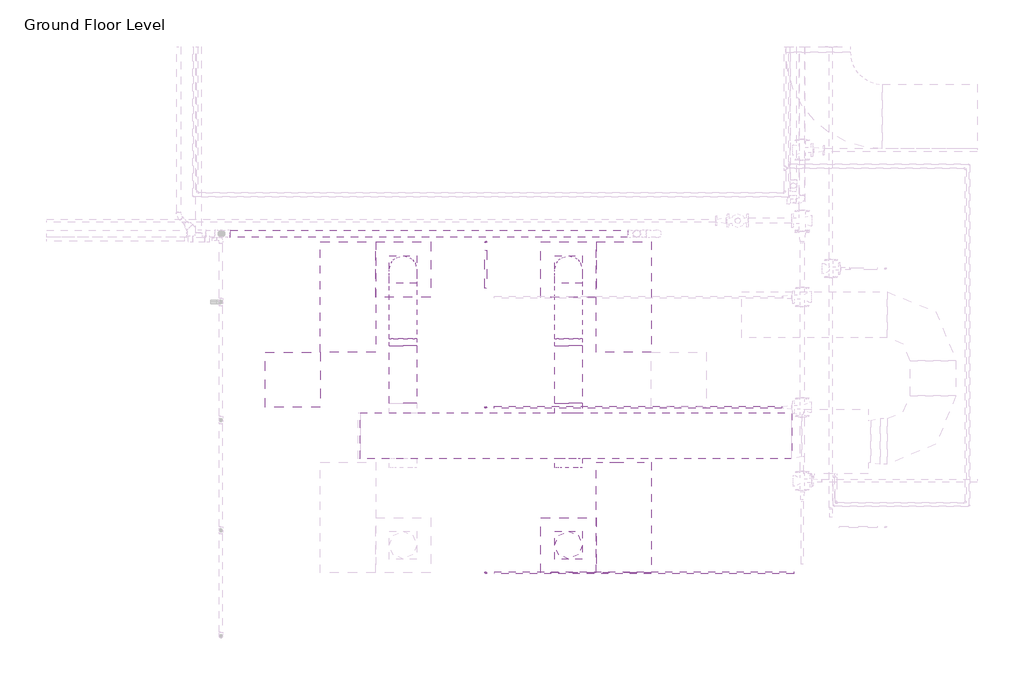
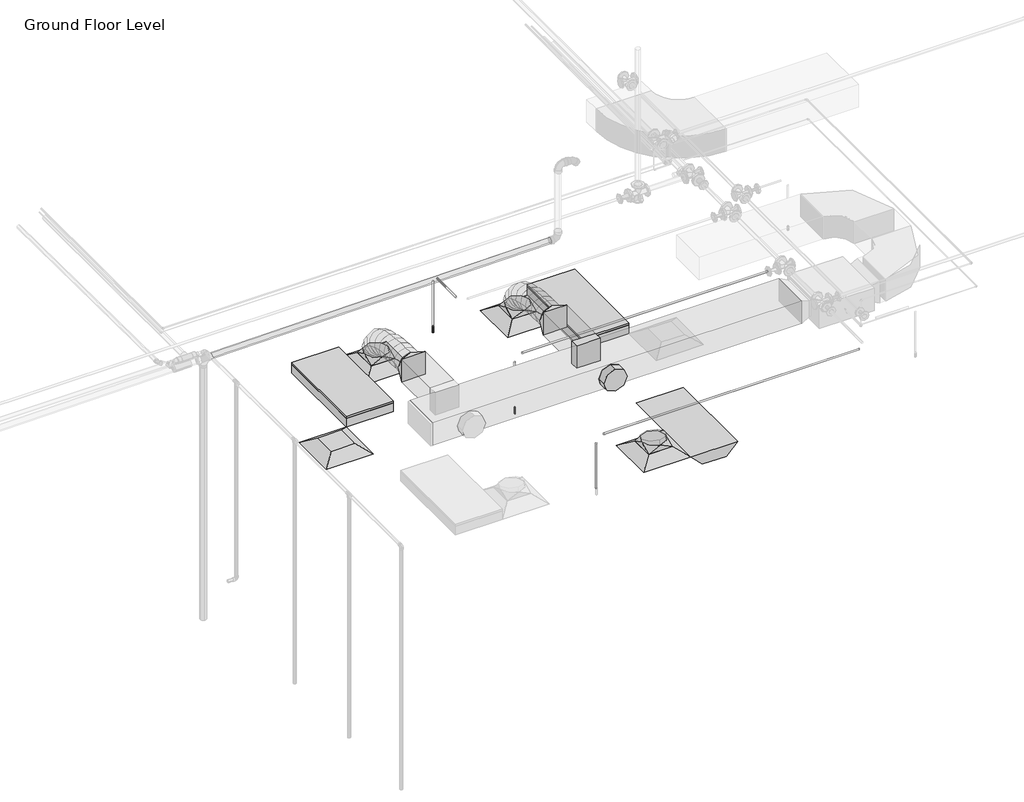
# One storey, part 14 of 74: 7 duct fittings, 7 pipe segments, 6 duct segments, 4 air terminals, 3 light fixtures, 2 fire suppression terminals.
"""IFC4 building model written with IfcOpenShell, lengths in millimetres."""

from ifc_helpers import new_model, si_unit, point, frame, frame_2d, origin, place, context, project, spatial, polyline, circle_curve, ellipse_curve, trimmed, segment, composite_curve, outline, extrude, transform, mapped, element, save
from ifc_brep_helpers import plane_surface, cylinder_surface, advanced_brep
from components import m_return_diffuser_600_x_600_face_300_x_300_connection_ff221211, m_rectangular_takeoff_standard_2be5eba1, m_rectangular_to_round_transition_angle_45_degree_641efff0, m_round_takeoff_standard_603b0510, m_sprinkler_dry_pendent_hosted_15_mm_dry_pendent_9bda8e11, m_emergency_recessed_lighting_fixture_600x1200_277_5b10b25d, m_troffer_light_parabolic_rectangular1_0600x1200mm_4_lamp_86473d4a

model = new_model("IFC4")

# Units and contexts
model_context = context("Model", 3, world=origin())
ifc_project = project(units=[si_unit("LENGTHUNIT", "METRE", prefix="MILLI")], contexts=[model_context])

# Site, building, storey
site = spatial("IfcSite", under=ifc_project)
building = spatial("IfcBuilding", under=site)
storey = spatial("IfcBuildingStorey", under=building, Name="Ground Floor Level", Elevation=900.0)

# Air terminals
placement = place(None, origin())
m_return_diffuser_600_x_600_face_300_x_300_connection_shape = m_return_diffuser_600_x_600_face_300_x_300_connection_ff221211(model_context)
element("IfcAirTerminal", 1, ObjectType="M_Return Diffuser : 600 x 600 Face 300 x 300 Connection", at=placement, inside=storey, context=model_context, shape_type="MappedRepresentation", body=[
    mapped(m_return_diffuser_600_x_600_face_300_x_300_connection_shape, transform((142.7672394, -37764.7846466, 3650.0), x_axis=(1.0, 0.0, 0.0), y_axis=(0.0, 1.0, 0.0), z_axis=(0.0, 0.0, 1.0))),
])
element("IfcAirTerminal", 2, ObjectType="M_Supply Diffuser : 600 x 600 Face 300 x 300 Connection", at=placement, inside=storey, context=model_context, shape_type="MappedRepresentation", body=[
    mapped(m_return_diffuser_600_x_600_face_300_x_300_connection_shape, transform((1342.7672394, -36564.7846466, 3650.0), x_axis=(1.0, 0.0, 0.0), y_axis=(0.0, 1.0, 0.0), z_axis=(0.0, 0.0, 1.0))),
])
element("IfcAirTerminal", 3, ObjectType="M_Supply Diffuser : 600 x 600 Face 300 x 300 Connection", at=placement, inside=storey, context=model_context, shape_type="MappedRepresentation", body=[
    mapped(m_return_diffuser_600_x_600_face_300_x_300_connection_shape, transform((3142.7672394, -36564.7846466, 3650.0), x_axis=(1.0, 0.0, 0.0), y_axis=(0.0, 1.0, 0.0), z_axis=(0.0, 0.0, 1.0))),
])
element("IfcAirTerminal", 4, ObjectType="M_Supply Diffuser : 600 x 600 Face 300 x 300 Connection", at=placement, inside=storey, context=model_context, shape_type="MappedRepresentation", body=[
    mapped(m_return_diffuser_600_x_600_face_300_x_300_connection_shape, transform((3142.7672394, -39564.7846466, 3650.0), x_axis=(1.0, 0.0, 0.0), y_axis=(0.0, 1.0, 0.0), z_axis=(0.0, 0.0, 1.0))),
])

# Duct fittings
m_rectangular_takeoff_standard_shape = m_rectangular_takeoff_standard_2be5eba1(model_context)
element("IfcDuctFitting", 5, ObjectType="M_Rectangular Takeoff : Standard", at=placement, inside=storey, context=model_context, shape_type="MappedRepresentation", body=[
    mapped(m_rectangular_takeoff_standard_shape, transform((3142.7672394, -38122.6128682, 4100.0), x_axis=(0.0, 1.0, 0.0), y_axis=(1.0, 0.0, 0.0), z_axis=(0.0, 0.0, -1.0))),
])
m_rectangular_to_round_transition_angle_45_degree_shape = m_rectangular_to_round_transition_angle_45_degree_641efff0(model_context)
element("IfcDuctFitting", 6, ObjectType="M_Rectangular to Round Transition - Angle : 45 Degree", at=placement, inside=storey, context=model_context, shape_type="MappedRepresentation", body=[
    mapped(m_rectangular_to_round_transition_angle_45_degree_shape, transform((3142.7672394, -39564.7846466, 3751.6), x_axis=(0.0, 0.0, 1.0), y_axis=(-1.0, 0.0, 0.0), z_axis=(0.0, -1.0, 0.0))),
])
element("IfcDuctFitting", 7, ObjectType="M_Rectangular to Round Transition - Angle : 45 Degree", at=placement, inside=storey, context=model_context, shape_type="MappedRepresentation", body=[
    mapped(m_rectangular_to_round_transition_angle_45_degree_shape, transform((3142.7672394, -36564.7846466, 3751.6), x_axis=(0.0, 0.0, 1.0), y_axis=(-1.0, 0.0, 0.0), z_axis=(0.0, -1.0, 0.0))),
])
element("IfcDuctFitting", 8, ObjectType="M_Rectangular to Round Transition - Angle : 45 Degree", at=placement, inside=storey, context=model_context, shape_type="MappedRepresentation", body=[
    mapped(m_rectangular_to_round_transition_angle_45_degree_shape, transform((3142.7672394, -37392.1205779, 4100.0), x_axis=(0.0, 1.0, 0.0), y_axis=(-1.0, 0.0, 0.0), z_axis=(0.0, 0.0, 1.0))),
])
element("IfcDuctFitting", 9, ObjectType="M_Rectangular to Round Transition - Angle : 45 Degree", at=placement, inside=storey, context=model_context, shape_type="MappedRepresentation", body=[
    mapped(m_rectangular_to_round_transition_angle_45_degree_shape, transform((1342.7672394, -36564.7846466, 3751.6), x_axis=(0.0, 0.0, 1.0), y_axis=(-1.0, 0.0, 0.0), z_axis=(0.0, -1.0, 0.0))),
])
element("IfcDuctFitting", 10, ObjectType="M_Rectangular to Round Transition - Angle : 45 Degree", at=placement, inside=storey, context=model_context, shape_type="MappedRepresentation", body=[
    mapped(m_rectangular_to_round_transition_angle_45_degree_shape, transform((1342.7672394, -37392.1205779, 4100.0), x_axis=(0.0, 1.0, 0.0), y_axis=(-1.0, 0.0, 0.0), z_axis=(0.0, 0.0, 1.0))),
])
m_round_takeoff_standard_shape = m_round_takeoff_standard_603b0510(model_context)
element("IfcDuctFitting", 11, ObjectType="M_Round Takeoff : Standard", at=placement, inside=storey, context=model_context, shape_type="MappedRepresentation", body=[
    mapped(m_round_takeoff_standard_shape, transform((3142.7672394, -38622.6128682, 4100.0), x_axis=(0.0, -1.0, 0.0), y_axis=(-1.0, 0.0, 0.0), z_axis=(0.0, 0.0, -1.0))),
])

# Duct segments
element("IfcDuctSegment", 12, ObjectType="Flex - Round", at=placement, inside=storey, context=model_context, shape_type="AdvancedBrep", body=[
    advanced_brep(
    [(3292.7672394, -39564.7846466, 3826.6), (3142.7672394, -39714.7846466, 3826.6), (2992.7672394, -39564.7846466, 3826.6), (3142.7672394, -39414.7846466, 3826.6), (3292.7672394, -39564.7846466, 3860.5958413), (3142.7672394, -39414.7846466, 3830.2822637), (2992.7672394, -39564.7846466, 3860.5958413), (3142.7672394, -39714.7846466, 3890.9094188)],
    [
        (0, 1, circle_curve(frame((3142.7672394, -39564.7846466, 3826.6), z_axis=(0.0, 0.0, -1.0), x_axis=(1.0, 0.0, 0.0)), 150.0)),
        (1, 2, circle_curve(frame((3142.7672394, -39564.7846466, 3826.6), z_axis=(0.0, 0.0, -1.0), x_axis=(1.0, 0.0, 0.0)), 150.0)),
        (2, 3, circle_curve(frame((3142.7672394, -39564.7846466, 3826.6), z_axis=(0.0, 0.0, -1.0), x_axis=(1.0, 0.0, 0.0)), 150.0)),
        (3, 0, circle_curve(frame((3142.7672394, -39564.7846466, 3826.6), z_axis=(0.0, 0.0, -1.0), x_axis=(1.0, 0.0, 0.0)), 150.0)),
        (4, 5, ellipse_curve(frame((3142.7672394, -39564.7846466, 3860.5958413), z_axis=(0.0, 0.19808602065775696, 0.9801846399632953), x_axis=(0.0, 0.9801846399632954, -0.19808602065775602)), 153.0323919, 150.0)),
        (5, 6, ellipse_curve(frame((3142.7672394, -39564.7846466, 3860.5958413), z_axis=(0.0, 0.19808602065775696, 0.9801846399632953), x_axis=(0.0, 0.9801846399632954, -0.19808602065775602)), 153.0323919, 150.0)),
        (6, 7, ellipse_curve(frame((3142.7672394, -39564.7846466, 3860.5958413), z_axis=(0.0, 0.19808602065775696, 0.9801846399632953), x_axis=(0.0, 0.9801846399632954, -0.19808602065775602)), 153.0323919, 150.0)),
        (7, 4, ellipse_curve(frame((3142.7672394, -39564.7846466, 3860.5958413), z_axis=(0.0, 0.19808602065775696, 0.9801846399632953), x_axis=(0.0, 0.9801846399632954, -0.19808602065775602)), 153.0323919, 150.0)),
        (0, 4),
        (7, 1),
        (6, 2),
        (5, 3),
    ],
    [
        plane_surface(frame((3142.7672394, -39714.7846466, 3826.6), z_axis=(0.0, 0.0, -1.0), x_axis=(1.0, 0.0, 0.0))),
        plane_surface(frame((3292.7672394, -39564.7846466, 3860.5958413), z_axis=(0.0, 0.19808602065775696, 0.9801846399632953), x_axis=(0.0, 0.9801846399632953, -0.19808602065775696))),
        cylinder_surface(frame((3142.7672394, -39564.7846466, 3826.6), z_axis=(0.0, 0.0, -1.0), x_axis=(1.0, 0.0, 0.0)), 150.0),
    ],
    [
        (0, [[1, 2, 3, 4]]),
        (1, [[5, 6, 7, 8]]),
        (2, [[-1, 9, -8, 10]]),
        (2, [[-2, -10, -7, 11]]),
        (2, [[-3, -11, -6, 12]]),
        (2, [[-4, -12, -5, -9]]),
    ],
),
])
element("IfcDuctSegment", 13, ObjectType="Flex - Round", at=placement, inside=storey, context=model_context, shape_type="AdvancedBrep", body=[
    advanced_brep(
    [(3292.7672394, -36564.7846466, 3826.6), (3142.7672394, -36714.7846466, 3826.6), (2992.7672394, -36564.7846466, 3826.6), (3142.7672394, -36414.7846466, 3826.6), (3292.7672394, -36564.7846466, 3857.9377114), (3142.7672394, -36714.7846466, 3832.2944892), (2992.7672394, -36564.7846466, 3857.9377114), (3142.7672394, -36414.7846466, 3883.5809337), (3292.7672394, -36581.8005792, 3906.2505728), (3142.7672394, -36715.5385581, 3834.435049), (2992.7672394, -36581.8005792, 3906.2505728), (3142.7672394, -36448.0626002, 3978.0660967), (3292.7672394, -36628.9844595, 3968.7113131), (3142.7672394, -36733.1903588, 3857.8020236), (2992.7672394, -36628.9844595, 3968.7113131), (3142.7672394, -36524.7785603, 4079.6206026), (3292.7672394, -36700.5404117, 4016.0700639), (3142.7672394, -36769.4744673, 3881.8163788), (2992.7672394, -36700.5404117, 4016.0700639), (3142.7672394, -36631.6063561, 4150.3237489), (3292.7672394, -36790.6725597, 4050.4146682), (3142.7672394, -36834.2333229, 3906.4925606), (2992.7672394, -36790.6725597, 4050.4146682), (3142.7672394, -36747.1117965, 4194.3367758), (3292.7672394, -36893.5850275, 4073.8329691), (3142.7672394, -36920.1459515, 3926.0424542), (2992.7672394, -36893.5850275, 4073.8329691), (3142.7672394, -36867.0241035, 4221.6234841), (3292.7672394, -37003.4819393, 4088.4128097), (3142.7672394, -37018.6328416, 3939.1085462), (2992.7672394, -37003.4819393, 4088.4128097), (3142.7672394, -36988.3310369, 4237.7170733), (3292.7672394, -37114.5674189, 4096.242033), (3142.7672394, -37122.0727471, 3946.398915), (2992.7672394, -37114.5674189, 4096.242033), (3142.7672394, -37107.0620907, 4246.085151), (3292.7672394, -37221.0455904, 4099.4084821), (3142.7672394, -37223.7370835, 3949.4222102), (2992.7672394, -37221.0455904, 4099.4084821), (3142.7672394, -37218.3540973, 4249.394754), (3292.7672394, -37317.1205779, 4100.0), (3142.7672394, -37316.1970701, 4249.9971571), (2992.7672394, -37317.1205779, 4100.0), (3142.7672394, -37318.0440857, 3950.0028429)],
    [
        (0, 1, circle_curve(frame((3142.7672394, -36564.7846466, 3826.6), z_axis=(0.0, 0.0, -1.0), x_axis=(1.0, 0.0, 0.0)), 150.0)),
        (1, 2, circle_curve(frame((3142.7672394, -36564.7846466, 3826.6), z_axis=(0.0, 0.0, -1.0), x_axis=(1.0, 0.0, 0.0)), 150.0)),
        (2, 3, circle_curve(frame((3142.7672394, -36564.7846466, 3826.6), z_axis=(0.0, 0.0, -1.0), x_axis=(1.0, 0.0, 0.0)), 150.0)),
        (3, 0, circle_curve(frame((3142.7672394, -36564.7846466, 3826.6), z_axis=(0.0, 0.0, -1.0), x_axis=(1.0, 0.0, 0.0)), 150.0)),
        (0, 4),
        (4, 5, ellipse_curve(frame((3142.7672394, -36564.7846466, 3857.9377114), z_axis=(0.0, 0.16851014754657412, -0.9856999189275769), x_axis=(0.0, -0.9856999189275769, -0.16851014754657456)), 152.176131, 150.0)),
        (5, 1),
        (5, 6, ellipse_curve(frame((3142.7672394, -36564.7846466, 3857.9377114), z_axis=(0.0, 0.16851014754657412, -0.9856999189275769), x_axis=(0.0, -0.9856999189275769, -0.16851014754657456)), 152.176131, 150.0)),
        (6, 2),
        (6, 7, ellipse_curve(frame((3142.7672394, -36564.7846466, 3857.9377114), z_axis=(0.0, 0.16851014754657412, -0.9856999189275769), x_axis=(0.0, -0.9856999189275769, -0.16851014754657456)), 152.176131, 150.0)),
        (7, 3),
        (7, 4, ellipse_curve(frame((3142.7672394, -36564.7846466, 3857.9377114), z_axis=(0.0, 0.16851014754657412, -0.9856999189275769), x_axis=(0.0, -0.9856999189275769, -0.16851014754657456)), 152.176131, 150.0)),
        (4, 8),
        (8, 9, ellipse_curve(frame((3142.7672394, -36581.8005792, 3906.2505728), z_axis=(0.0, 0.47309225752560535, -0.881012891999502), x_axis=(0.0, -0.8810128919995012, -0.473092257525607)), 151.8002519, 150.0)),
        (9, 5),
        (9, 10, ellipse_curve(frame((3142.7672394, -36581.8005792, 3906.2505728), z_axis=(0.0, 0.47309225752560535, -0.881012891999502), x_axis=(0.0, -0.8810128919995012, -0.473092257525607)), 151.8002519, 150.0)),
        (10, 6),
        (10, 11, ellipse_curve(frame((3142.7672394, -36581.8005792, 3906.2505728), z_axis=(0.0, 0.47309225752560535, -0.881012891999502), x_axis=(0.0, -0.8810128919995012, -0.473092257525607)), 151.8002519, 150.0)),
        (11, 7),
        (11, 8, ellipse_curve(frame((3142.7672394, -36581.8005792, 3906.2505728), z_axis=(0.0, 0.47309225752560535, -0.881012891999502), x_axis=(0.0, -0.8810128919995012, -0.473092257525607)), 151.8002519, 150.0)),
        (8, 12),
        (12, 13, ellipse_curve(frame((3142.7672394, -36628.9844595, 3968.7113131), z_axis=(0.0, 0.7287877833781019, -0.6847396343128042), x_axis=(0.0, -0.6847396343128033, -0.7287877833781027)), 152.1832446, 150.0)),
        (13, 9),
        (13, 14, ellipse_curve(frame((3142.7672394, -36628.9844595, 3968.7113131), z_axis=(0.0, 0.7287877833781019, -0.6847396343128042), x_axis=(0.0, -0.6847396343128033, -0.7287877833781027)), 152.1832446, 150.0)),
        (14, 10),
        (14, 15, ellipse_curve(frame((3142.7672394, -36628.9844595, 3968.7113131), z_axis=(0.0, 0.7287877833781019, -0.6847396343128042), x_axis=(0.0, -0.6847396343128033, -0.7287877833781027)), 152.1832446, 150.0)),
        (15, 11),
        (15, 12, ellipse_curve(frame((3142.7672394, -36628.9844595, 3968.7113131), z_axis=(0.0, 0.7287877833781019, -0.6847396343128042), x_axis=(0.0, -0.6847396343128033, -0.7287877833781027)), 152.1832446, 150.0)),
        (12, 16),
        (16, 17, ellipse_curve(frame((3142.7672394, -36700.5404117, 4016.0700639), z_axis=(0.0, 0.8895859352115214, -0.45676784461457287), x_axis=(0.0, -0.4567678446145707, -0.8895859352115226)), 150.91705, 150.0)),
        (17, 13),
        (17, 18, ellipse_curve(frame((3142.7672394, -36700.5404117, 4016.0700639), z_axis=(0.0, 0.8895859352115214, -0.45676784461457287), x_axis=(0.0, -0.4567678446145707, -0.8895859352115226)), 150.91705, 150.0)),
        (18, 14),
        (18, 19, ellipse_curve(frame((3142.7672394, -36700.5404117, 4016.0700639), z_axis=(0.0, 0.8895859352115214, -0.45676784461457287), x_axis=(0.0, -0.4567678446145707, -0.8895859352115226)), 150.91705, 150.0)),
        (19, 15),
        (19, 16, ellipse_curve(frame((3142.7672394, -36700.5404117, 4016.0700639), z_axis=(0.0, 0.8895859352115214, -0.45676784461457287), x_axis=(0.0, -0.4567678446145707, -0.8895859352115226)), 150.91705, 150.0)),
        (16, 20),
        (20, 21, ellipse_curve(frame((3142.7672394, -36790.6725597, 4050.4146682), z_axis=(0.0, 0.9571203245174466, -0.28969067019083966), x_axis=(0.0, -0.2896906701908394, -0.9571203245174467)), 150.369921, 150.0)),
        (21, 17),
        (21, 22, ellipse_curve(frame((3142.7672394, -36790.6725597, 4050.4146682), z_axis=(0.0, 0.9571203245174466, -0.28969067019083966), x_axis=(0.0, -0.2896906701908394, -0.9571203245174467)), 150.369921, 150.0)),
        (22, 18),
        (22, 23, ellipse_curve(frame((3142.7672394, -36790.6725597, 4050.4146682), z_axis=(0.0, 0.9571203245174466, -0.28969067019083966), x_axis=(0.0, -0.2896906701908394, -0.9571203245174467)), 150.369921, 150.0)),
        (23, 19),
        (23, 20, ellipse_curve(frame((3142.7672394, -36790.6725597, 4050.4146682), z_axis=(0.0, 0.9571203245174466, -0.28969067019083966), x_axis=(0.0, -0.2896906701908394, -0.9571203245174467)), 150.369921, 150.0)),
        (20, 24),
        (24, 25, ellipse_curve(frame((3142.7672394, -36893.5850275, 4073.8329691), z_axis=(0.0, 0.9842313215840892, -0.17688613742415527), x_axis=(0.0, -0.17688613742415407, -0.9842313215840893)), 150.1583131, 150.0)),
        (25, 21),
        (25, 26, ellipse_curve(frame((3142.7672394, -36893.5850275, 4073.8329691), z_axis=(0.0, 0.9842313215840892, -0.17688613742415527), x_axis=(0.0, -0.17688613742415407, -0.9842313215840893)), 150.1583131, 150.0)),
        (26, 22),
        (26, 27, ellipse_curve(frame((3142.7672394, -36893.5850275, 4073.8329691), z_axis=(0.0, 0.9842313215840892, -0.17688613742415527), x_axis=(0.0, -0.17688613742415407, -0.9842313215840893)), 150.1583131, 150.0)),
        (27, 23),
        (27, 24, ellipse_curve(frame((3142.7672394, -36893.5850275, 4073.8329691), z_axis=(0.0, 0.9842313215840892, -0.17688613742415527), x_axis=(0.0, -0.17688613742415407, -0.9842313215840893)), 150.1583131, 150.0)),
        (24, 28),
        (28, 29, ellipse_curve(frame((3142.7672394, -37003.4819393, 4088.4128097), z_axis=(0.0, 0.9948906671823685, -0.10095821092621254), x_axis=(0.0, -0.10095821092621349, -0.9948906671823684)), 150.0710264, 150.0)),
        (29, 25),
        (29, 30, ellipse_curve(frame((3142.7672394, -37003.4819393, 4088.4128097), z_axis=(0.0, 0.9948906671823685, -0.10095821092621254), x_axis=(0.0, -0.10095821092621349, -0.9948906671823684)), 150.0710264, 150.0)),
        (30, 26),
        (30, 31, ellipse_curve(frame((3142.7672394, -37003.4819393, 4088.4128097), z_axis=(0.0, 0.9948906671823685, -0.10095821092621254), x_axis=(0.0, -0.10095821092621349, -0.9948906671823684)), 150.0710264, 150.0)),
        (31, 27),
        (31, 28, ellipse_curve(frame((3142.7672394, -37003.4819393, 4088.4128097), z_axis=(0.0, 0.9948906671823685, -0.10095821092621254), x_axis=(0.0, -0.10095821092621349, -0.9948906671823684)), 150.0710264, 150.0)),
        (28, 32),
        (32, 33, ellipse_curve(frame((3142.7672394, -37114.5674189, 4096.242033), z_axis=(0.0, 0.9987479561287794, -0.05002519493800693), x_axis=(0.0, -0.05002519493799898, -0.99874795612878)), 150.0309634, 150.0)),
        (33, 29),
        (33, 34, ellipse_curve(frame((3142.7672394, -37114.5674189, 4096.242033), z_axis=(0.0, 0.9987479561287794, -0.05002519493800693), x_axis=(0.0, -0.05002519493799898, -0.99874795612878)), 150.0309634, 150.0)),
        (34, 30),
        (34, 35, ellipse_curve(frame((3142.7672394, -37114.5674189, 4096.242033), z_axis=(0.0, 0.9987479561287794, -0.05002519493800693), x_axis=(0.0, -0.05002519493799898, -0.99874795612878)), 150.0309634, 150.0)),
        (35, 31),
        (35, 32, ellipse_curve(frame((3142.7672394, -37114.5674189, 4096.242033), z_axis=(0.0, 0.9987479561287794, -0.05002519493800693), x_axis=(0.0, -0.05002519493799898, -0.99874795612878)), 150.0309634, 150.0)),
        (32, 36),
        (36, 37, ellipse_curve(frame((3142.7672394, -37221.0455904, 4099.4084821), z_axis=(0.0, 0.999839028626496, -0.01794204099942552), x_axis=(0.0, -0.01794204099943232, -0.9998390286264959)), 150.0104193, 150.0)),
        (37, 33),
        (37, 38, ellipse_curve(frame((3142.7672394, -37221.0455904, 4099.4084821), z_axis=(0.0, 0.999839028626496, -0.01794204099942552), x_axis=(0.0, -0.01794204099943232, -0.9998390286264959)), 150.0104193, 150.0)),
        (38, 34),
        (38, 39, ellipse_curve(frame((3142.7672394, -37221.0455904, 4099.4084821), z_axis=(0.0, 0.999839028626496, -0.01794204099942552), x_axis=(0.0, -0.01794204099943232, -0.9998390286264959)), 150.0104193, 150.0)),
        (39, 35),
        (39, 36, ellipse_curve(frame((3142.7672394, -37221.0455904, 4099.4084821), z_axis=(0.0, 0.999839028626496, -0.01794204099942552), x_axis=(0.0, -0.01794204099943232, -0.9998390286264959)), 150.0104193, 150.0)),
        (40, 41, circle_curve(frame((3142.7672394, -37317.1205779, 4100.0), z_axis=(0.0, -0.9999810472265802, 0.006156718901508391), x_axis=(1.0, 0.0, 0.0)), 150.0)),
        (41, 42, circle_curve(frame((3142.7672394, -37317.1205779, 4100.0), z_axis=(0.0, -0.9999810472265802, 0.006156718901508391), x_axis=(1.0, 0.0, 0.0)), 150.0)),
        (42, 43, circle_curve(frame((3142.7672394, -37317.1205779, 4100.0), z_axis=(0.0, -0.9999810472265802, 0.006156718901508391), x_axis=(1.0, 0.0, 0.0)), 150.0)),
        (43, 40, circle_curve(frame((3142.7672394, -37317.1205779, 4100.0), z_axis=(0.0, -0.9999810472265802, 0.006156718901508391), x_axis=(1.0, 0.0, 0.0)), 150.0)),
        (36, 40),
        (43, 37),
        (42, 38),
        (41, 39),
    ],
    [
        plane_surface(frame((3142.7672394, -36714.7846466, 3826.6), z_axis=(0.0, 0.0, -1.0), x_axis=(1.0, 0.0, 0.0))),
        cylinder_surface(frame((3142.7672394, -36564.7846466, 3826.6), z_axis=(0.0, 0.0, -1.0), x_axis=(1.0, 0.0, 0.0)), 150.0),
        cylinder_surface(frame((3142.7672394, -36564.7846466, 3857.9377114), z_axis=(0.0, 0.3322008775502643, -0.9432086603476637), x_axis=(1.0, 0.0, 0.0)), 150.0),
        cylinder_surface(frame((3142.7672394, -36581.8005792, 3906.2505728), z_axis=(0.0, 0.6027625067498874, -0.7979206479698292), x_axis=(1.0, 0.0, 0.0)), 150.0),
        cylinder_surface(frame((3142.7672394, -36628.9844595, 3968.7113131), z_axis=(0.0, 0.8339024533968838, -0.5519118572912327), x_axis=(1.0, 0.0, 0.0)), 150.0),
        cylinder_surface(frame((3142.7672394, -36700.5404117, 4016.0700639), z_axis=(0.0, 0.9344582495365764, -0.3560727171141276), x_axis=(1.0, 0.0, 0.0)), 150.0),
        cylinder_surface(frame((3142.7672394, -36790.6725597, 4050.4146682), z_axis=(0.0, 0.9750732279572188, -0.22188330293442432), x_axis=(1.0, 0.0, 0.0)), 150.0),
        cylinder_surface(frame((3142.7672394, -36893.5850275, 4073.8329691), z_axis=(0.0, 0.991314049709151, -0.13151598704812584), x_axis=(1.0, 0.0, 0.0)), 150.0),
        cylinder_surface(frame((3142.7672394, -37003.4819393, 4088.4128097), z_axis=(0.0, 0.9975255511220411, -0.07030487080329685), x_axis=(1.0, 0.0, 0.0)), 150.0),
        cylinder_surface(frame((3142.7672394, -37114.5674189, 4096.242033), z_axis=(0.0, 0.9995581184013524, -0.029724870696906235), x_axis=(1.0, 0.0, 0.0)), 150.0),
        plane_surface(frame((3142.7672394, -37318.0440857, 3950.0028429), z_axis=(0.0, -0.9999810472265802, 0.006156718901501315), x_axis=(1.0, 0.0, 0.0))),
        cylinder_surface(frame((3142.7672394, -37221.0455904, 4099.4084821), z_axis=(0.0, 0.9999810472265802, -0.006156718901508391), x_axis=(1.0, 0.0, 0.0)), 150.0),
    ],
    [
        (0, [[1, 2, 3, 4]]),
        (1, [[-1, 5, 6, 7]]),
        (1, [[-2, -7, 8, 9]]),
        (1, [[-3, -9, 10, 11]]),
        (1, [[-4, -11, 12, -5]]),
        (2, [[-6, 13, 14, 15]]),
        (2, [[-8, -15, 16, 17]]),
        (2, [[-10, -17, 18, 19]]),
        (2, [[-12, -19, 20, -13]]),
        (3, [[-14, 21, 22, 23]]),
        (3, [[-16, -23, 24, 25]]),
        (3, [[-18, -25, 26, 27]]),
        (3, [[-20, -27, 28, -21]]),
        (4, [[-22, 29, 30, 31]]),
        (4, [[-24, -31, 32, 33]]),
        (4, [[-26, -33, 34, 35]]),
        (4, [[-28, -35, 36, -29]]),
        (5, [[-30, 37, 38, 39]]),
        (5, [[-32, -39, 40, 41]]),
        (5, [[-34, -41, 42, 43]]),
        (5, [[-36, -43, 44, -37]]),
        (6, [[-38, 45, 46, 47]]),
        (6, [[-40, -47, 48, 49]]),
        (6, [[-42, -49, 50, 51]]),
        (6, [[-44, -51, 52, -45]]),
        (7, [[-46, 53, 54, 55]]),
        (7, [[-48, -55, 56, 57]]),
        (7, [[-50, -57, 58, 59]]),
        (7, [[-52, -59, 60, -53]]),
        (8, [[-54, 61, 62, 63]]),
        (8, [[-56, -63, 64, 65]]),
        (8, [[-58, -65, 66, 67]]),
        (8, [[-60, -67, 68, -61]]),
        (9, [[-62, 69, 70, 71]]),
        (9, [[-64, -71, 72, 73]]),
        (9, [[-66, -73, 74, 75]]),
        (9, [[-68, -75, 76, -69]]),
        (10, [[77, 78, 79, 80]]),
        (11, [[-70, 81, -80, 82]]),
        (11, [[-72, -82, -79, 83]]),
        (11, [[-74, -83, -78, 84]]),
        (11, [[-76, -84, -77, -81]]),
    ],
),
])
element("IfcDuctSegment", 14, ObjectType="Flex - Round", at=placement, inside=storey, context=model_context, shape_type="AdvancedBrep", body=[
    advanced_brep(
    [(1492.7672394, -36564.7846466, 3826.6), (1342.7672394, -36714.7846466, 3826.6), (1192.7672394, -36564.7846466, 3826.6), (1342.7672394, -36414.7846466, 3826.6), (1492.7672394, -36564.7846466, 3857.9377114), (1342.7672394, -36714.7846466, 3832.2944892), (1192.7672394, -36564.7846466, 3857.9377114), (1342.7672394, -36414.7846466, 3883.5809337), (1492.7672394, -36581.8005792, 3906.2505728), (1342.7672394, -36715.5385581, 3834.435049), (1192.7672394, -36581.8005792, 3906.2505728), (1342.7672394, -36448.0626002, 3978.0660967), (1492.7672394, -36628.9844595, 3968.7113131), (1342.7672394, -36733.1903588, 3857.8020236), (1192.7672394, -36628.9844595, 3968.7113131), (1342.7672394, -36524.7785603, 4079.6206026), (1492.7672394, -36700.5404117, 4016.0700639), (1342.7672394, -36769.4744673, 3881.8163788), (1192.7672394, -36700.5404117, 4016.0700639), (1342.7672394, -36631.6063561, 4150.3237489), (1492.7672394, -36790.6725597, 4050.4146682), (1342.7672394, -36834.2333229, 3906.4925606), (1192.7672394, -36790.6725597, 4050.4146682), (1342.7672394, -36747.1117965, 4194.3367758), (1492.7672394, -36893.5850275, 4073.8329691), (1342.7672394, -36920.1459515, 3926.0424542), (1192.7672394, -36893.5850275, 4073.8329691), (1342.7672394, -36867.0241035, 4221.6234841), (1492.7672394, -37003.4819393, 4088.4128097), (1342.7672394, -37018.6328416, 3939.1085462), (1192.7672394, -37003.4819393, 4088.4128097), (1342.7672394, -36988.3310369, 4237.7170733), (1492.7672394, -37114.5674189, 4096.242033), (1342.7672394, -37122.0727471, 3946.398915), (1192.7672394, -37114.5674189, 4096.242033), (1342.7672394, -37107.0620907, 4246.085151), (1492.7672394, -37221.0455904, 4099.4084821), (1342.7672394, -37223.7370835, 3949.4222102), (1192.7672394, -37221.0455904, 4099.4084821), (1342.7672394, -37218.3540973, 4249.394754), (1492.7672394, -37317.1205779, 4100.0), (1342.7672394, -37316.1970701, 4249.9971571), (1192.7672394, -37317.1205779, 4100.0), (1342.7672394, -37318.0440857, 3950.0028429)],
    [
        (0, 1, circle_curve(frame((1342.7672394, -36564.7846466, 3826.6), z_axis=(0.0, 0.0, -1.0), x_axis=(1.0, 0.0, 0.0)), 150.0)),
        (1, 2, circle_curve(frame((1342.7672394, -36564.7846466, 3826.6), z_axis=(0.0, 0.0, -1.0), x_axis=(1.0, 0.0, 0.0)), 150.0)),
        (2, 3, circle_curve(frame((1342.7672394, -36564.7846466, 3826.6), z_axis=(0.0, 0.0, -1.0), x_axis=(1.0, 0.0, 0.0)), 150.0)),
        (3, 0, circle_curve(frame((1342.7672394, -36564.7846466, 3826.6), z_axis=(0.0, 0.0, -1.0), x_axis=(1.0, 0.0, 0.0)), 150.0)),
        (0, 4),
        (4, 5, ellipse_curve(frame((1342.7672394, -36564.7846466, 3857.9377114), z_axis=(0.0, 0.16851014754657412, -0.9856999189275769), x_axis=(0.0, -0.9856999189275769, -0.16851014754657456)), 152.176131, 150.0)),
        (5, 1),
        (5, 6, ellipse_curve(frame((1342.7672394, -36564.7846466, 3857.9377114), z_axis=(0.0, 0.16851014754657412, -0.9856999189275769), x_axis=(0.0, -0.9856999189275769, -0.16851014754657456)), 152.176131, 150.0)),
        (6, 2),
        (6, 7, ellipse_curve(frame((1342.7672394, -36564.7846466, 3857.9377114), z_axis=(0.0, 0.16851014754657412, -0.9856999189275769), x_axis=(0.0, -0.9856999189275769, -0.16851014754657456)), 152.176131, 150.0)),
        (7, 3),
        (7, 4, ellipse_curve(frame((1342.7672394, -36564.7846466, 3857.9377114), z_axis=(0.0, 0.16851014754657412, -0.9856999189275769), x_axis=(0.0, -0.9856999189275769, -0.16851014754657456)), 152.176131, 150.0)),
        (4, 8),
        (8, 9, ellipse_curve(frame((1342.7672394, -36581.8005792, 3906.2505728), z_axis=(0.0, 0.47309225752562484, -0.8810128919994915), x_axis=(0.0, -0.8810128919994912, -0.4730922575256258)), 151.8002519, 150.0)),
        (9, 5),
        (9, 10, ellipse_curve(frame((1342.7672394, -36581.8005792, 3906.2505728), z_axis=(0.0, 0.47309225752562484, -0.8810128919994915), x_axis=(0.0, -0.8810128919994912, -0.4730922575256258)), 151.8002519, 150.0)),
        (10, 6),
        (10, 11, ellipse_curve(frame((1342.7672394, -36581.8005792, 3906.2505728), z_axis=(0.0, 0.47309225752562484, -0.8810128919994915), x_axis=(0.0, -0.8810128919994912, -0.4730922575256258)), 151.8002519, 150.0)),
        (11, 7),
        (11, 8, ellipse_curve(frame((1342.7672394, -36581.8005792, 3906.2505728), z_axis=(0.0, 0.47309225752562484, -0.8810128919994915), x_axis=(0.0, -0.8810128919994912, -0.4730922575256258)), 151.8002519, 150.0)),
        (8, 12),
        (12, 13, ellipse_curve(frame((1342.7672394, -36628.9844595, 3968.7113131), z_axis=(0.0, 0.7287877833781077, -0.6847396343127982), x_axis=(0.0, -0.6847396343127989, -0.7287877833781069)), 152.1832446, 150.0)),
        (13, 9),
        (13, 14, ellipse_curve(frame((1342.7672394, -36628.9844595, 3968.7113131), z_axis=(0.0, 0.7287877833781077, -0.6847396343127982), x_axis=(0.0, -0.6847396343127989, -0.7287877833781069)), 152.1832446, 150.0)),
        (14, 10),
        (14, 15, ellipse_curve(frame((1342.7672394, -36628.9844595, 3968.7113131), z_axis=(0.0, 0.7287877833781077, -0.6847396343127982), x_axis=(0.0, -0.6847396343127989, -0.7287877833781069)), 152.1832446, 150.0)),
        (15, 11),
        (15, 12, ellipse_curve(frame((1342.7672394, -36628.9844595, 3968.7113131), z_axis=(0.0, 0.7287877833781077, -0.6847396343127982), x_axis=(0.0, -0.6847396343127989, -0.7287877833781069)), 152.1832446, 150.0)),
        (12, 16),
        (16, 17, ellipse_curve(frame((1342.7672394, -36700.5404117, 4016.0700639), z_axis=(0.0, 0.8895859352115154, -0.45676784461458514), x_axis=(0.0, -0.45676784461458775, -0.8895859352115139)), 150.91705, 150.0)),
        (17, 13),
        (17, 18, ellipse_curve(frame((1342.7672394, -36700.5404117, 4016.0700639), z_axis=(0.0, 0.8895859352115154, -0.45676784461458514), x_axis=(0.0, -0.45676784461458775, -0.8895859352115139)), 150.91705, 150.0)),
        (18, 14),
        (18, 19, ellipse_curve(frame((1342.7672394, -36700.5404117, 4016.0700639), z_axis=(0.0, 0.8895859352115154, -0.45676784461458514), x_axis=(0.0, -0.45676784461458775, -0.8895859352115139)), 150.91705, 150.0)),
        (19, 15),
        (19, 16, ellipse_curve(frame((1342.7672394, -36700.5404117, 4016.0700639), z_axis=(0.0, 0.8895859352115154, -0.45676784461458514), x_axis=(0.0, -0.45676784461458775, -0.8895859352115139)), 150.91705, 150.0)),
        (16, 20),
        (20, 21, ellipse_curve(frame((1342.7672394, -36790.6725597, 4050.4146682), z_axis=(0.0, 0.957120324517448, -0.28969067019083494), x_axis=(0.0, -0.28969067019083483, -0.9571203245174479)), 150.369921, 150.0)),
        (21, 17),
        (21, 22, ellipse_curve(frame((1342.7672394, -36790.6725597, 4050.4146682), z_axis=(0.0, 0.957120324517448, -0.28969067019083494), x_axis=(0.0, -0.28969067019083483, -0.9571203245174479)), 150.369921, 150.0)),
        (22, 18),
        (22, 23, ellipse_curve(frame((1342.7672394, -36790.6725597, 4050.4146682), z_axis=(0.0, 0.957120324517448, -0.28969067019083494), x_axis=(0.0, -0.28969067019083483, -0.9571203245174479)), 150.369921, 150.0)),
        (23, 19),
        (23, 20, ellipse_curve(frame((1342.7672394, -36790.6725597, 4050.4146682), z_axis=(0.0, 0.957120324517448, -0.28969067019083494), x_axis=(0.0, -0.28969067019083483, -0.9571203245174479)), 150.369921, 150.0)),
        (20, 24),
        (24, 25, ellipse_curve(frame((1342.7672394, -36893.5850275, 4073.8329691), z_axis=(0.0, 0.9842313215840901, -0.17688613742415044), x_axis=(0.0, -0.1768861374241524, -0.9842313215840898)), 150.1583131, 150.0)),
        (25, 21),
        (25, 26, ellipse_curve(frame((1342.7672394, -36893.5850275, 4073.8329691), z_axis=(0.0, 0.9842313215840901, -0.17688613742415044), x_axis=(0.0, -0.1768861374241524, -0.9842313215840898)), 150.1583131, 150.0)),
        (26, 22),
        (26, 27, ellipse_curve(frame((1342.7672394, -36893.5850275, 4073.8329691), z_axis=(0.0, 0.9842313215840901, -0.17688613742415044), x_axis=(0.0, -0.1768861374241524, -0.9842313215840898)), 150.1583131, 150.0)),
        (27, 23),
        (27, 24, ellipse_curve(frame((1342.7672394, -36893.5850275, 4073.8329691), z_axis=(0.0, 0.9842313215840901, -0.17688613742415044), x_axis=(0.0, -0.1768861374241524, -0.9842313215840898)), 150.1583131, 150.0)),
        (24, 28),
        (28, 29, ellipse_curve(frame((1342.7672394, -37003.4819393, 4088.4128097), z_axis=(0.0, 0.9948906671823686, -0.10095821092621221), x_axis=(0.0, -0.10095821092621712, -0.9948906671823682)), 150.0710264, 150.0)),
        (29, 25),
        (29, 30, ellipse_curve(frame((1342.7672394, -37003.4819393, 4088.4128097), z_axis=(0.0, 0.9948906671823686, -0.10095821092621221), x_axis=(0.0, -0.10095821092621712, -0.9948906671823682)), 150.0710264, 150.0)),
        (30, 26),
        (30, 31, ellipse_curve(frame((1342.7672394, -37003.4819393, 4088.4128097), z_axis=(0.0, 0.9948906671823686, -0.10095821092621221), x_axis=(0.0, -0.10095821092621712, -0.9948906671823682)), 150.0710264, 150.0)),
        (31, 27),
        (31, 28, ellipse_curve(frame((1342.7672394, -37003.4819393, 4088.4128097), z_axis=(0.0, 0.9948906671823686, -0.10095821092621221), x_axis=(0.0, -0.10095821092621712, -0.9948906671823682)), 150.0710264, 150.0)),
        (28, 32),
        (32, 33, ellipse_curve(frame((1342.7672394, -37114.5674189, 4096.242033), z_axis=(0.0, 0.9987479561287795, -0.05002519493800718), x_axis=(0.0, -0.0500251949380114, -0.9987479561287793)), 150.0309634, 150.0)),
        (33, 29),
        (33, 34, ellipse_curve(frame((1342.7672394, -37114.5674189, 4096.242033), z_axis=(0.0, 0.9987479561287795, -0.05002519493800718), x_axis=(0.0, -0.0500251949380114, -0.9987479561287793)), 150.0309634, 150.0)),
        (34, 30),
        (34, 35, ellipse_curve(frame((1342.7672394, -37114.5674189, 4096.242033), z_axis=(0.0, 0.9987479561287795, -0.05002519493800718), x_axis=(0.0, -0.0500251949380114, -0.9987479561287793)), 150.0309634, 150.0)),
        (35, 31),
        (35, 32, ellipse_curve(frame((1342.7672394, -37114.5674189, 4096.242033), z_axis=(0.0, 0.9987479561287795, -0.05002519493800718), x_axis=(0.0, -0.0500251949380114, -0.9987479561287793)), 150.0309634, 150.0)),
        (32, 36),
        (36, 37, ellipse_curve(frame((1342.7672394, -37221.0455904, 4099.4084821), z_axis=(0.0, 0.9998390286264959, -0.017942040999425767), x_axis=(0.0, -0.017942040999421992, -0.999839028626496)), 150.0104193, 150.0)),
        (37, 33),
        (37, 38, ellipse_curve(frame((1342.7672394, -37221.0455904, 4099.4084821), z_axis=(0.0, 0.9998390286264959, -0.017942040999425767), x_axis=(0.0, -0.017942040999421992, -0.999839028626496)), 150.0104193, 150.0)),
        (38, 34),
        (38, 39, ellipse_curve(frame((1342.7672394, -37221.0455904, 4099.4084821), z_axis=(0.0, 0.9998390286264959, -0.017942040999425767), x_axis=(0.0, -0.017942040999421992, -0.999839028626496)), 150.0104193, 150.0)),
        (39, 35),
        (39, 36, ellipse_curve(frame((1342.7672394, -37221.0455904, 4099.4084821), z_axis=(0.0, 0.9998390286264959, -0.017942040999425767), x_axis=(0.0, -0.017942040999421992, -0.999839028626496)), 150.0104193, 150.0)),
        (40, 41, circle_curve(frame((1342.7672394, -37317.1205779, 4100.0), z_axis=(0.0, -0.9999810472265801, 0.006156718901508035), x_axis=(1.0, 0.0, 0.0)), 150.0)),
        (41, 42, circle_curve(frame((1342.7672394, -37317.1205779, 4100.0), z_axis=(0.0, -0.9999810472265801, 0.006156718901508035), x_axis=(1.0, 0.0, 0.0)), 150.0)),
        (42, 43, circle_curve(frame((1342.7672394, -37317.1205779, 4100.0), z_axis=(0.0, -0.9999810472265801, 0.006156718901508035), x_axis=(1.0, 0.0, 0.0)), 150.0)),
        (43, 40, circle_curve(frame((1342.7672394, -37317.1205779, 4100.0), z_axis=(0.0, -0.9999810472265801, 0.006156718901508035), x_axis=(1.0, 0.0, 0.0)), 150.0)),
        (36, 40),
        (43, 37),
        (42, 38),
        (41, 39),
    ],
    [
        plane_surface(frame((1342.7672394, -36714.7846466, 3826.6), z_axis=(0.0, 0.0, -1.0), x_axis=(1.0, 0.0, 0.0))),
        cylinder_surface(frame((1342.7672394, -36564.7846466, 3826.6), z_axis=(0.0, 0.0, -1.0), x_axis=(1.0, 0.0, 0.0)), 150.0),
        cylinder_surface(frame((1342.7672394, -36564.7846466, 3857.9377114), z_axis=(0.0, 0.3322008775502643, -0.9432086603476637), x_axis=(1.0, 0.0, 0.0)), 150.0),
        cylinder_surface(frame((1342.7672394, -36581.8005792, 3906.2505728), z_axis=(0.0, 0.6027625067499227, -0.7979206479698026), x_axis=(1.0, 0.0, 0.0)), 150.0),
        cylinder_surface(frame((1342.7672394, -36628.9844595, 3968.7113131), z_axis=(0.0, 0.8339024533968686, -0.5519118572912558), x_axis=(1.0, 0.0, 0.0)), 150.0),
        cylinder_surface(frame((1342.7672394, -36700.5404117, 4016.0700639), z_axis=(0.0, 0.9344582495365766, -0.35607271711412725), x_axis=(1.0, 0.0, 0.0)), 150.0),
        cylinder_surface(frame((1342.7672394, -36790.6725597, 4050.4146682), z_axis=(0.0, 0.975073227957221, -0.22188330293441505), x_axis=(1.0, 0.0, 0.0)), 150.0),
        cylinder_surface(frame((1342.7672394, -36893.5850275, 4073.8329691), z_axis=(0.0, 0.991314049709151, -0.13151598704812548), x_axis=(1.0, 0.0, 0.0)), 150.0),
        cylinder_surface(frame((1342.7672394, -37003.4819393, 4088.4128097), z_axis=(0.0, 0.9975255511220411, -0.07030487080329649), x_axis=(1.0, 0.0, 0.0)), 150.0),
        cylinder_surface(frame((1342.7672394, -37114.5674189, 4096.242033), z_axis=(0.0, 0.9995581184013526, -0.029724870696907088), x_axis=(1.0, 0.0, 0.0)), 150.0),
        plane_surface(frame((1342.7672394, -37318.0440857, 3950.0028429), z_axis=(0.0, -0.9999810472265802, 0.006156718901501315), x_axis=(1.0, 0.0, 0.0))),
        cylinder_surface(frame((1342.7672394, -37221.0455904, 4099.4084821), z_axis=(0.0, 0.9999810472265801, -0.006156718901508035), x_axis=(1.0, 0.0, 0.0)), 150.0),
    ],
    [
        (0, [[1, 2, 3, 4]]),
        (1, [[-1, 5, 6, 7]]),
        (1, [[-2, -7, 8, 9]]),
        (1, [[-3, -9, 10, 11]]),
        (1, [[-4, -11, 12, -5]]),
        (2, [[-6, 13, 14, 15]]),
        (2, [[-8, -15, 16, 17]]),
        (2, [[-10, -17, 18, 19]]),
        (2, [[-12, -19, 20, -13]]),
        (3, [[-14, 21, 22, 23]]),
        (3, [[-16, -23, 24, 25]]),
        (3, [[-18, -25, 26, 27]]),
        (3, [[-20, -27, 28, -21]]),
        (4, [[-22, 29, 30, 31]]),
        (4, [[-24, -31, 32, 33]]),
        (4, [[-26, -33, 34, 35]]),
        (4, [[-28, -35, 36, -29]]),
        (5, [[-30, 37, 38, 39]]),
        (5, [[-32, -39, 40, 41]]),
        (5, [[-34, -41, 42, 43]]),
        (5, [[-36, -43, 44, -37]]),
        (6, [[-38, 45, 46, 47]]),
        (6, [[-40, -47, 48, 49]]),
        (6, [[-42, -49, 50, 51]]),
        (6, [[-44, -51, 52, -45]]),
        (7, [[-46, 53, 54, 55]]),
        (7, [[-48, -55, 56, 57]]),
        (7, [[-50, -57, 58, 59]]),
        (7, [[-52, -59, 60, -53]]),
        (8, [[-54, 61, 62, 63]]),
        (8, [[-56, -63, 64, 65]]),
        (8, [[-58, -65, 66, 67]]),
        (8, [[-60, -67, 68, -61]]),
        (9, [[-62, 69, 70, 71]]),
        (9, [[-64, -71, 72, 73]]),
        (9, [[-66, -73, 74, 75]]),
        (9, [[-68, -75, 76, -69]]),
        (10, [[77, 78, 79, 80]]),
        (11, [[-70, 81, -80, 82]]),
        (11, [[-72, -82, -79, 83]]),
        (11, [[-74, -83, -78, 84]]),
        (11, [[-76, -84, -77, -81]]),
    ],
),
])
element("IfcDuctSegment", 15, ObjectType="Radius Elbows / Taps", at=placement, inside=storey, context=model_context, shape_type="SweptSolid", body=[
    extrude(outline(polyline([(5573.8880106, -38122.6128682), (5573.8880106, -38622.6128682), (877.3672394, -38622.6128682), (877.3672394, -38122.6128682), (5573.8880106, -38122.6128682)])), frame((0.0, 0.0, 3950.0), z_axis=(0.0, 0.0, 1.0), x_axis=(1.0, 0.0, 0.0)), (0.0, 0.0, 1.0), 300.0),
])
element("IfcDuctSegment", 16, ObjectType="Radius Elbows / Taps", at=placement, inside=storey, context=model_context, shape_type="SweptSolid", body=[
    extrude(outline(polyline([(3292.7672394, -38021.0128682), (2992.7672394, -38021.0128682), (2992.7672394, -37392.1205779), (3292.7672394, -37392.1205779), (3292.7672394, -38021.0128682)])), frame((0.0, 0.0, 3950.0), z_axis=(0.0, 0.0, 1.0), x_axis=(1.0, 0.0, 0.0)), (0.0, 0.0, 1.0), 300.0),
])
element("IfcDuctSegment", 17, ObjectType="Radius Elbows / Taps", at=placement, inside=storey, context=model_context, shape_type="SweptSolid", body=[
    extrude(outline(polyline([(1492.7672394, -38021.0128682), (1192.7672394, -38021.0128682), (1192.7672394, -37392.1205779), (1492.7672394, -37392.1205779), (1492.7672394, -38021.0128682)])), frame((0.0, 0.0, 3950.0), z_axis=(0.0, 0.0, 1.0), x_axis=(1.0, 0.0, 0.0)), (0.0, 0.0, 1.0), 300.0),
])

# Fire suppression terminals
m_sprinkler_dry_pendent_hosted_15_mm_dry_pendent_shape = m_sprinkler_dry_pendent_hosted_15_mm_dry_pendent_9bda8e11(model_context)
element("IfcFireSuppressionTerminal", 18, ObjectType="M_Sprinkler - Dry - Pendent - Hosted : 15 mm Dry Pendent", at=placement, inside=storey, context=model_context, shape_type="MappedRepresentation", body=[
    mapped(m_sprinkler_dry_pendent_hosted_15_mm_dry_pendent_shape, transform((2242.7672394, -36264.7846466, 3650.0), x_axis=(1.0, 0.0, 0.0), y_axis=(0.0, -1.0, 0.0), z_axis=(0.0, 0.0, -1.0))),
])
element("IfcFireSuppressionTerminal", 19, ObjectType="M_Sprinkler - Dry - Pendent - Hosted : 15 mm Dry Pendent", at=placement, inside=storey, context=model_context, shape_type="MappedRepresentation", body=[
    mapped(m_sprinkler_dry_pendent_hosted_15_mm_dry_pendent_shape, transform((2242.7672394, -38064.7846466, 3650.0), x_axis=(1.0, 0.0, 0.0), y_axis=(0.0, -1.0, 0.0), z_axis=(0.0, 0.0, -1.0))),
])

# Light fixtures
m_emergency_recessed_lighting_fixture_600x1200_277_shape = m_emergency_recessed_lighting_fixture_600x1200_277_5b10b25d(model_context)
element("IfcLightFixture", 20, ObjectType="M_Emergency Recessed Lighting Fixture : 600x1200 - 277", at=placement, inside=storey, context=model_context, shape_type="MappedRepresentation", body=[
    mapped(m_emergency_recessed_lighting_fixture_600x1200_277_shape, transform((3442.7672394, -39864.7846466, 3650.0), x_axis=(0.0, 1.0, 0.0), y_axis=(-1.0, 0.0, 0.0), z_axis=(0.0, 0.0, 1.0))),
])
m_troffer_light_parabolic_rectangular1_0600x1200mm_4_lamp_shape = m_troffer_light_parabolic_rectangular1_0600x1200mm_4_lamp_86473d4a(model_context)
element("IfcLightFixture", 21, ObjectType="M_Troffer Light - Parabolic Rectangular1 : 0600x1200mm(4 Lamp) - 277V 2", at=placement, inside=storey, context=model_context, shape_type="MappedRepresentation", body=[
    mapped(m_troffer_light_parabolic_rectangular1_0600x1200mm_4_lamp_shape, transform((683.3013073, -36846.081145, 3650.0), x_axis=(0.0, 1.0, 0.0), y_axis=(-1.0, 0.0, 0.0), z_axis=(0.0, 0.0, 1.0))),
])
element("IfcLightFixture", 22, ObjectType="M_Troffer Light - Parabolic Rectangular1 : 0600x1200mm(4 Lamp) - 277V 2", at=placement, inside=storey, context=model_context, shape_type="MappedRepresentation", body=[
    mapped(m_troffer_light_parabolic_rectangular1_0600x1200mm_4_lamp_shape, transform((3683.3013073, -36846.081145, 3650.0), x_axis=(0.0, 1.0, 0.0), y_axis=(-1.0, 0.0, 0.0), z_axis=(0.0, 0.0, 1.0))),
])

# Pipe segments
element("IfcPipeSegment", 23, ObjectType="PVC - DWV", at=placement, inside=storey, context=model_context, shape_type="SweptSolid", body=[
    extrude(outline(composite_curve([segment(trimmed(circle_curve(frame_2d((0.0, 36.5125)), 36.5125), [point((0.0, 0.0))], [point((-36.5125, 36.5125))], False, "CARTESIAN"), True, "CONTINUOUS"), segment(trimmed(circle_curve(frame_2d((0.0, 36.5125)), 36.5125), [point((-36.5125, 36.5125))], [point((0.0, 73.025))], False, "CARTESIAN"), True, "CONTINUOUS"), segment(trimmed(circle_curve(frame_2d((0.0, 36.5125)), 36.5125), [point((0.0, 73.025))], [point((36.5125, 36.5125))], False, "CARTESIAN"), True, "CONTINUOUS"), segment(trimmed(circle_curve(frame_2d((0.0, 36.5125)), 36.5125), [point((36.5125, 36.5125))], [point((0.0, 0.0))], False, "CARTESIAN"), True, "CONTINUOUS")], self_intersect=False)), frame((-535.7518107, -36212.6526483, 4165.088417), z_axis=(0.9999500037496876, 0.0, 0.009999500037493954), x_axis=(0.009999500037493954, 0.0, -0.9999500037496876)), (0.0, 0.0, 1.0), 4321.3662316),
])
element("IfcPipeSegment", 24, ObjectType="Steel flanged", at=placement, inside=storey, context=model_context, shape_type="SweptSolid", body=[
    extrude(outline(composite_curve([segment(trimmed(circle_curve(frame_2d((2242.7672394, -38064.7846466)), 10.668), [point((2232.0992394, -38064.7846466))], [point((2242.7672394, -38054.1166466))], False, "CARTESIAN"), True, "CONTINUOUS"), segment(trimmed(circle_curve(frame_2d((2242.7672394, -38064.7846466)), 10.668), [point((2242.7672394, -38054.1166466))], [point((2253.4352394, -38064.7846466))], False, "CARTESIAN"), True, "CONTINUOUS"), segment(trimmed(circle_curve(frame_2d((2242.7672394, -38064.7846466)), 10.668), [point((2253.4352394, -38064.7846466))], [point((2242.7672394, -38075.4526466))], False, "CARTESIAN"), True, "CONTINUOUS"), segment(trimmed(circle_curve(frame_2d((2242.7672394, -38064.7846466)), 10.668), [point((2242.7672394, -38075.4526466))], [point((2232.0992394, -38064.7846466))], False, "CARTESIAN"), True, "CONTINUOUS")], self_intersect=False)), frame((0.0, 0.0, 3650.0), z_axis=(0.0, 0.0, 1.0), x_axis=(1.0, 0.0, 0.0)), (0.0, 0.0, 1.0), 604.4914062),
])
element("IfcPipeSegment", 25, ObjectType="Steel flanged", at=placement, inside=storey, context=model_context, shape_type="SweptSolid", body=[
    extrude(outline(composite_curve([segment(trimmed(circle_curve(frame_2d((-38064.7846466, 4347.5)), 10.668), [point((-38075.4526466, 4347.5))], [point((-38064.7846466, 4358.168))], False, "CARTESIAN"), True, "CONTINUOUS"), segment(trimmed(circle_curve(frame_2d((-38064.7846466, 4347.5)), 10.668), [point((-38064.7846466, 4358.168))], [point((-38054.1166466, 4347.5))], False, "CARTESIAN"), True, "CONTINUOUS"), segment(trimmed(circle_curve(frame_2d((-38064.7846466, 4347.5)), 10.668), [point((-38054.1166466, 4347.5))], [point((-38064.7846466, 4336.832))], False, "CARTESIAN"), True, "CONTINUOUS"), segment(trimmed(circle_curve(frame_2d((-38064.7846466, 4347.5)), 10.668), [point((-38064.7846466, 4336.832))], [point((-38075.4526466, 4347.5))], False, "CARTESIAN"), True, "CONTINUOUS")], self_intersect=False)), frame((2335.7758332, 0.0, 0.0), z_axis=(1.0, 0.0, 0.0), x_axis=(0.0, 1.0, 0.0)), (0.0, 0.0, 1.0), 3128.7430625),
])
element("IfcPipeSegment", 26, ObjectType="Steel flanged", at=placement, inside=storey, context=model_context, shape_type="SweptSolid", body=[
    extrude(outline(composite_curve([segment(trimmed(circle_curve(frame_2d((2242.7672394, -39864.7846466)), 10.668), [point((2232.0992394, -39864.7846466))], [point((2242.7672394, -39854.1166466))], False, "CARTESIAN"), True, "CONTINUOUS"), segment(trimmed(circle_curve(frame_2d((2242.7672394, -39864.7846466)), 10.668), [point((2242.7672394, -39854.1166466))], [point((2253.4352394, -39864.7846466))], False, "CARTESIAN"), True, "CONTINUOUS"), segment(trimmed(circle_curve(frame_2d((2242.7672394, -39864.7846466)), 10.668), [point((2253.4352394, -39864.7846466))], [point((2242.7672394, -39875.4526466))], False, "CARTESIAN"), True, "CONTINUOUS"), segment(trimmed(circle_curve(frame_2d((2242.7672394, -39864.7846466)), 10.668), [point((2242.7672394, -39875.4526466))], [point((2232.0992394, -39864.7846466))], False, "CARTESIAN"), True, "CONTINUOUS")], self_intersect=False)), frame((0.0, 0.0, 3650.0), z_axis=(0.0, 0.0, 1.0), x_axis=(1.0, 0.0, 0.0)), (0.0, 0.0, 1.0), 604.4914062),
])
element("IfcPipeSegment", 27, ObjectType="Steel flanged", at=placement, inside=storey, context=model_context, shape_type="SweptSolid", body=[
    extrude(outline(composite_curve([segment(trimmed(circle_curve(frame_2d((-39864.7846466, 4347.5)), 10.668), [point((-39875.4526466, 4347.5))], [point((-39864.7846466, 4358.168))], False, "CARTESIAN"), True, "CONTINUOUS"), segment(trimmed(circle_curve(frame_2d((-39864.7846466, 4347.5)), 10.668), [point((-39864.7846466, 4358.168))], [point((-39854.1166466, 4347.5))], False, "CARTESIAN"), True, "CONTINUOUS"), segment(trimmed(circle_curve(frame_2d((-39864.7846466, 4347.5)), 10.668), [point((-39854.1166466, 4347.5))], [point((-39864.7846466, 4336.832))], False, "CARTESIAN"), True, "CONTINUOUS"), segment(trimmed(circle_curve(frame_2d((-39864.7846466, 4347.5)), 10.668), [point((-39864.7846466, 4336.832))], [point((-39875.4526466, 4347.5))], False, "CARTESIAN"), True, "CONTINUOUS")], self_intersect=False)), frame((2335.7758332, 0.0, 0.0), z_axis=(1.0, 0.0, 0.0), x_axis=(0.0, 1.0, 0.0)), (0.0, 0.0, 1.0), 3255.8330625),
])
element("IfcPipeSegment", 28, ObjectType="Steel flanged", at=placement, inside=storey, context=model_context, shape_type="SweptSolid", body=[
    extrude(outline(composite_curve([segment(trimmed(circle_curve(frame_2d((4347.5, 2242.7672394)), 10.668), [point((4347.5, 2232.0992394))], [point((4336.832, 2242.7672394))], False, "CARTESIAN"), True, "CONTINUOUS"), segment(trimmed(circle_curve(frame_2d((4347.5, 2242.7672394)), 10.668), [point((4336.832, 2242.7672394))], [point((4347.5, 2253.4352394))], False, "CARTESIAN"), True, "CONTINUOUS"), segment(trimmed(circle_curve(frame_2d((4347.5, 2242.7672394)), 10.668), [point((4347.5, 2253.4352394))], [point((4358.168, 2242.7672394))], False, "CARTESIAN"), True, "CONTINUOUS"), segment(trimmed(circle_curve(frame_2d((4347.5, 2242.7672394)), 10.668), [point((4358.168, 2242.7672394))], [point((4347.5, 2232.0992394))], False, "CARTESIAN"), True, "CONTINUOUS")], self_intersect=False)), frame((0.0, -36771.7760529, 0.0), z_axis=(0.0, 1.0, 0.0), x_axis=(0.0, 0.0, 1.0)), (0.0, 0.0, 1.0), 413.9828125),
])
element("IfcPipeSegment", 29, ObjectType="Steel flanged", at=placement, inside=storey, context=model_context, shape_type="SweptSolid", body=[
    extrude(outline(composite_curve([segment(trimmed(circle_curve(frame_2d((2242.7672394, -36264.7846466)), 10.668), [point((2232.0992394, -36264.7846466))], [point((2242.7672394, -36254.1166466))], False, "CARTESIAN"), True, "CONTINUOUS"), segment(trimmed(circle_curve(frame_2d((2242.7672394, -36264.7846466)), 10.668), [point((2242.7672394, -36254.1166466))], [point((2253.4352394, -36264.7846466))], False, "CARTESIAN"), True, "CONTINUOUS"), segment(trimmed(circle_curve(frame_2d((2242.7672394, -36264.7846466)), 10.668), [point((2253.4352394, -36264.7846466))], [point((2242.7672394, -36275.4526466))], False, "CARTESIAN"), True, "CONTINUOUS"), segment(trimmed(circle_curve(frame_2d((2242.7672394, -36264.7846466)), 10.668), [point((2242.7672394, -36275.4526466))], [point((2232.0992394, -36264.7846466))], False, "CARTESIAN"), True, "CONTINUOUS")], self_intersect=False)), frame((0.0, 0.0, 3650.0), z_axis=(0.0, 0.0, 1.0), x_axis=(1.0, 0.0, 0.0)), (0.0, 0.0, 1.0), 604.4914063),
])

save(model, "model.ifc")
